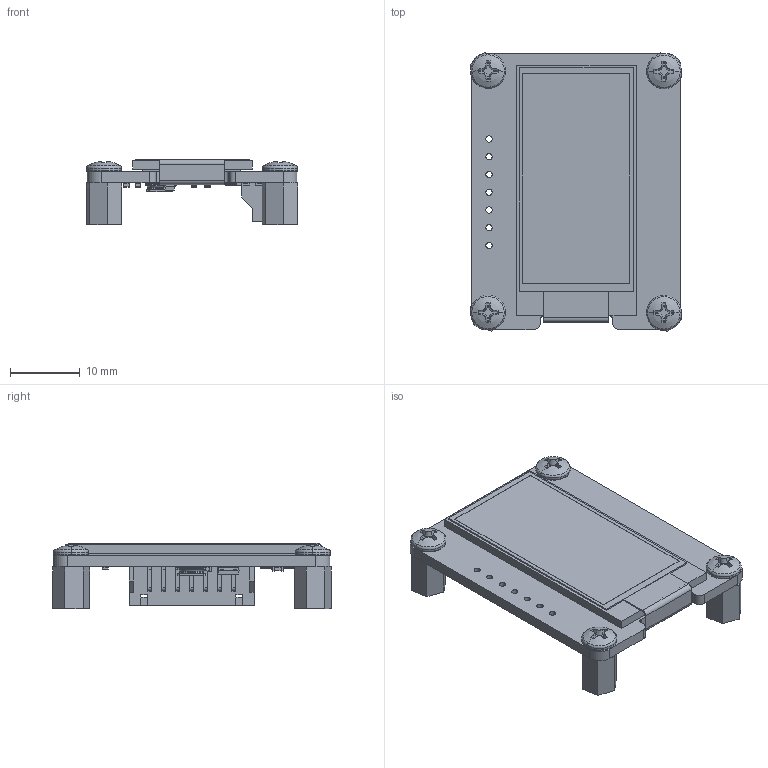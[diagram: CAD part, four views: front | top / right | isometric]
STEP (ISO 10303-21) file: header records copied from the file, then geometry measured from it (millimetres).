
FILE_DESCRIPTION((''),'2;1');
FILE_NAME('1_3INCH_OLED_MODULE_C__ASM','2023-08-01T11:30:37',('xiaojisheng'),(''),'CREO PARAMETRIC BY PTC INC, 2021063','CREO PARAMETRIC BY PTC INC, 2021063','');
FILE_SCHEMA(('CONFIG_CONTROL_DESIGN','SHAPE_APPEARANCE_LAYERS_GROUPS'));
Length unit declared in the file: millimetre
Products named in the file (35): BOARD; SW3DPS-SOT-23-5-DEFAULT; U2_ASM; RESC1608_0603_; R7_ASM; R6_ASM; R5_ASM; R4_ASM; R3_ASM; R2_ASM; R1_ASM; USER_LIBRARY-1N4148WS; D1_ASM; CAPC1608_0603_; C8_ASM; C7_ASM; C5_ASM; C4_ASM; C3_ASM; C2_ASM; C1_ASM; USER_LIBRARY-INDLQS_4012_-23698; USER_LIBRARY-INDLQS_4012_-34335; USER_LIBRARY-INDLQS_4012_-34847; USER_LIBRARY-INDLQS_4012_-23676_ASM; USER_LIBRARY-IND2-4X4X1R2_ASM; L1_ASM; J1_ASM; HP2_0-7PIN-SMT; PCB_ASM; 1_3INCH-QLED; EVA; HEX_STUDS-M3XH6; PM3X5-SCREW; 1_3INCH_OLED_MODULE_C__ASM
Assembly tree (54 placements, depth 6):
  1_3INCH_OLED_MODULE_C__ASM
    PCB_ASM
      BOARD
      U2_ASM
        SW3DPS-SOT-23-5-DEFAULT
      R7_ASM
        RESC1608_0603_
      R6_ASM
        RESC1608_0603_
      R5_ASM
        RESC1608_0603_
      R4_ASM
        RESC1608_0603_
      R3_ASM
        RESC1608_0603_
      R2_ASM
        RESC1608_0603_
      R1_ASM
        RESC1608_0603_
      D1_ASM
        USER_LIBRARY-1N4148WS
      C8_ASM
        CAPC1608_0603_
      C7_ASM
        CAPC1608_0603_
      C5_ASM
        CAPC1608_0603_
      C4_ASM
        CAPC1608_0603_
      C3_ASM
        CAPC1608_0603_
      C2_ASM
        CAPC1608_0603_
      C1_ASM
        CAPC1608_0603_
      L1_ASM
        USER_LIBRARY-IND2-4X4X1R2_ASM
          USER_LIBRARY-INDLQS_4012_-23676_ASM
            USER_LIBRARY-INDLQS_4012_-23698
            USER_LIBRARY-INDLQS_4012_-34335  x2
            USER_LIBRARY-INDLQS_4012_-34847
      J1_ASM
        RESC1608_0603_
      HP2_0-7PIN-SMT
    1_3INCH-QLED
    EVA
    HEX_STUDS-M3XH6  x4
    PM3X5-SCREW  x4
Bounding box: 30.21 x 39.87 x 9.4 mm (x, y, z)
Volume: 3642.6 mm3; surface area: 7484.9 mm2
Topology: 33 solids, 33 shells, 1579 faces, 3978 edges, 2380 vertices
Faces by surface type: plane 706, cylinder 582, sphere 128, bspline 68, cone 44, extrusion 33, torus 18
Entity records: 34923 total; most frequent: CARTESIAN_POINT 9947, ORIENTED_EDGE 3668, DIRECTION 3530, PRESENTATION_STYLE_ASSIGNMENT 2008, STYLED_ITEM 1834, EDGE_CURVE 1834, CURVE_STYLE 1822, VECTOR 1368
